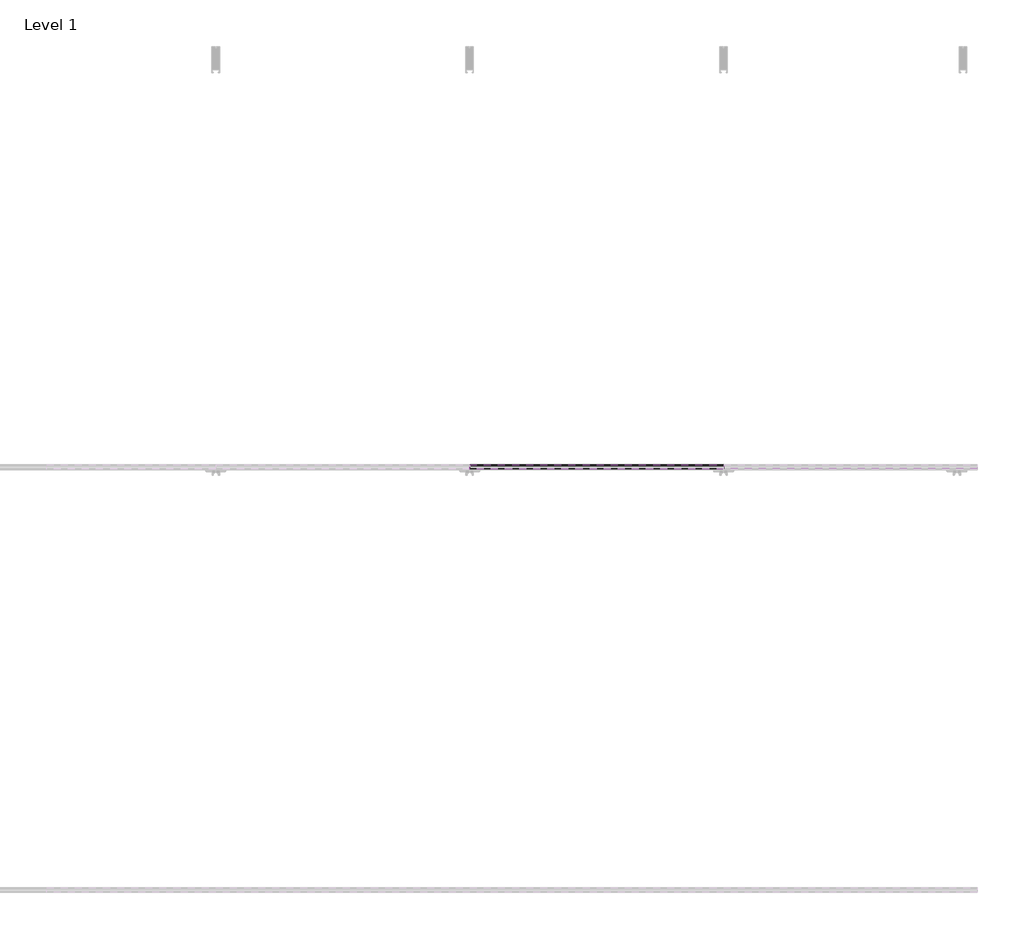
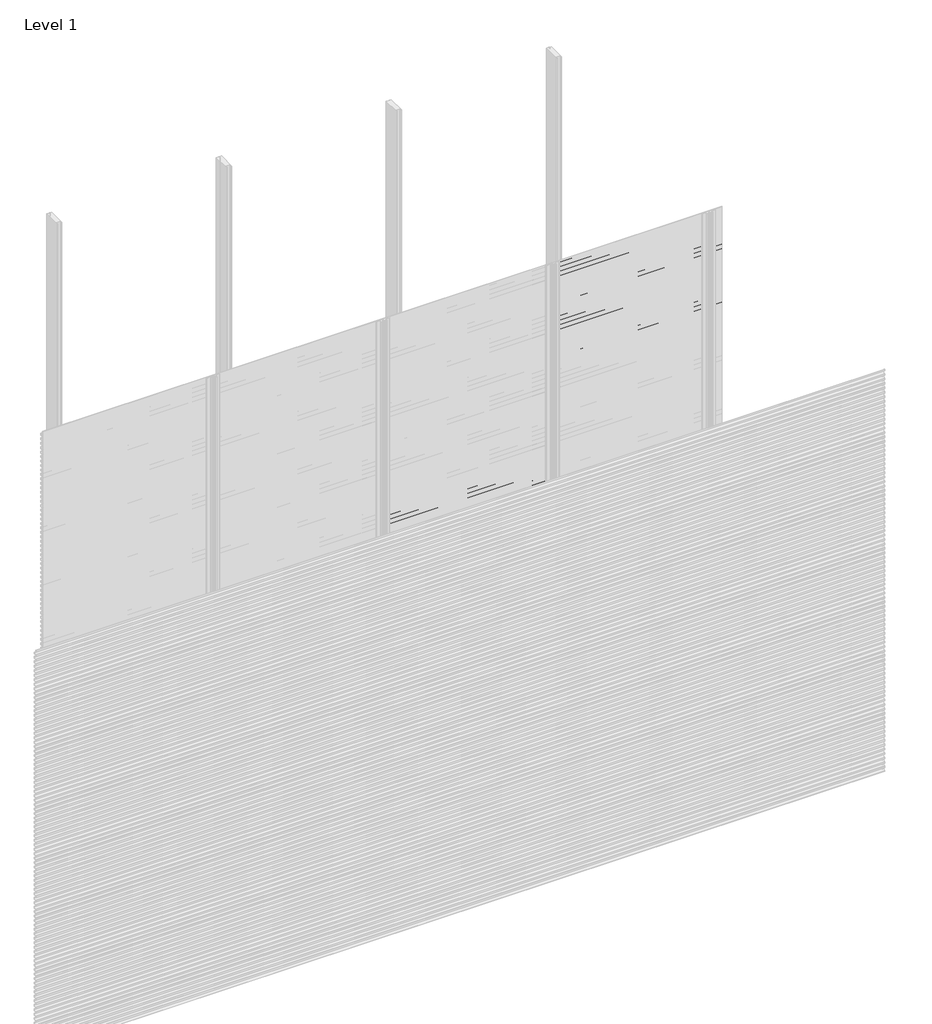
# One storey, part 9 of 77: 72 proxies.
"""IFC4 building model written with IfcOpenShell, lengths in millimetres."""

from ifc_helpers import new_model, si_unit, frame, origin, place, context, project, spatial, polyline, outline, extrude, element, save

model = new_model("IFC4")

# Units and contexts
model_context = context("Model", 3, world=origin())
ifc_project = project(units=[si_unit("LENGTHUNIT", "METRE", prefix="MILLI")], contexts=[model_context])

# Site, building, storey
site = spatial("IfcSite", under=ifc_project)
building = spatial("IfcBuilding", under=site)
storey = spatial("IfcBuildingStorey", under=building, Name="Level 1", Elevation=0.0)

# Proxies
placement = place(None, origin())
element("IfcBuildingElementProxy", 1, Name="Wall Sweeps", at=placement, inside=storey, context=model_context, shape_type="SweptSolid", body=[
    extrude(outline(polyline([(-53978.6, 1607.2359887), (-53998.0, 1618.4366691), (-53998.0, 1631.7), (-53997.0, 1631.7), (-53997.0, 1619.0191057), (-53977.6, 1607.8185105), (-53977.6, 1594.2185105), (-53978.6, 1595.7953129), (-53978.6, 1601.6032062), (-53995.9773817, 1593.5), (-53996.4, 1594.4063078), (-53978.6, 1602.7065841), (-53978.6, 1607.2359887)])), frame((3600.0, 0.0, 0.0), z_axis=(1.0, 0.0, 0.0), x_axis=(0.0, 1.0, 0.0)), (0.0, 0.0, 1.0), 1200.0),
])
element("IfcBuildingElementProxy", 2, Name="Wall Sweeps", at=placement, inside=storey, context=model_context, shape_type="SweptSolid", body=[
    extrude(outline(polyline([(-53978.6, 1573.9359887), (-53998.0, 1585.1366691), (-53998.0, 1598.4), (-53997.0, 1598.4), (-53997.0, 1585.7191057), (-53977.6, 1574.5185105), (-53977.6, 1560.9185105), (-53978.6, 1562.4953129), (-53978.6, 1568.3032062), (-53995.9773817, 1560.2), (-53996.4, 1561.1063078), (-53978.6, 1569.4065841), (-53978.6, 1573.9359887)])), frame((3600.0, 0.0, 0.0), z_axis=(1.0, 0.0, 0.0), x_axis=(0.0, 1.0, 0.0)), (0.0, 0.0, 1.0), 1200.0),
])
element("IfcBuildingElementProxy", 3, Name="Wall Sweeps", at=placement, inside=storey, context=model_context, shape_type="SweptSolid", body=[
    extrude(outline(polyline([(-53978.6, 1540.6359887), (-53998.0, 1551.8366691), (-53998.0, 1565.1), (-53997.0, 1565.1), (-53997.0, 1552.4191057), (-53977.6, 1541.2185105), (-53977.6, 1527.6185105), (-53978.6, 1529.1953129), (-53978.6, 1535.0032062), (-53995.9773817, 1526.9), (-53996.4, 1527.8063078), (-53978.6, 1536.1065841), (-53978.6, 1540.6359887)])), frame((3600.0, 0.0, 0.0), z_axis=(1.0, 0.0, 0.0), x_axis=(0.0, 1.0, 0.0)), (0.0, 0.0, 1.0), 1200.0),
])
element("IfcBuildingElementProxy", 4, Name="Wall Sweeps", at=placement, inside=storey, context=model_context, shape_type="SweptSolid", body=[
    extrude(outline(polyline([(-53978.6, 1507.3359887), (-53998.0, 1518.5366691), (-53998.0, 1531.8), (-53997.0, 1531.8), (-53997.0, 1519.1191057), (-53977.6, 1507.9185105), (-53977.6, 1494.3185105), (-53978.6, 1495.8953129), (-53978.6, 1501.7032062), (-53995.9773817, 1493.6), (-53996.4, 1494.5063078), (-53978.6, 1502.8065841), (-53978.6, 1507.3359887)])), frame((3600.0, 0.0, 0.0), z_axis=(1.0, 0.0, 0.0), x_axis=(0.0, 1.0, 0.0)), (0.0, 0.0, 1.0), 1200.0),
])
element("IfcBuildingElementProxy", 5, Name="Wall Sweeps", at=placement, inside=storey, context=model_context, shape_type="SweptSolid", body=[
    extrude(outline(polyline([(-53978.6, 1474.0359887), (-53998.0, 1485.2366691), (-53998.0, 1498.5), (-53997.0, 1498.5), (-53997.0, 1485.8191057), (-53977.6, 1474.6185105), (-53977.6, 1461.0185105), (-53978.6, 1462.5953129), (-53978.6, 1468.4032062), (-53995.9773817, 1460.3), (-53996.4, 1461.2063078), (-53978.6, 1469.5065841), (-53978.6, 1474.0359887)])), frame((3600.0, 0.0, 0.0), z_axis=(1.0, 0.0, 0.0), x_axis=(0.0, 1.0, 0.0)), (0.0, 0.0, 1.0), 1200.0),
])
element("IfcBuildingElementProxy", 6, Name="Wall Sweeps", at=placement, inside=storey, context=model_context, shape_type="SweptSolid", body=[
    extrude(outline(polyline([(-53978.6, 1440.7359887), (-53998.0, 1451.9366691), (-53998.0, 1465.2), (-53997.0, 1465.2), (-53997.0, 1452.5191057), (-53977.6, 1441.3185105), (-53977.6, 1427.7185105), (-53978.6, 1429.2953129), (-53978.6, 1435.1032062), (-53995.9773817, 1427.0), (-53996.4, 1427.9063078), (-53978.6, 1436.2065841), (-53978.6, 1440.7359887)])), frame((3600.0, 0.0, 0.0), z_axis=(1.0, 0.0, 0.0), x_axis=(0.0, 1.0, 0.0)), (0.0, 0.0, 1.0), 1200.0),
])
element("IfcBuildingElementProxy", 7, Name="Wall Sweeps", at=placement, inside=storey, context=model_context, shape_type="SweptSolid", body=[
    extrude(outline(polyline([(-53978.6, 1407.4359887), (-53998.0, 1418.6366691), (-53998.0, 1431.9), (-53997.0, 1431.9), (-53997.0, 1419.2191057), (-53977.6, 1408.0185105), (-53977.6, 1394.4185105), (-53978.6, 1395.9953129), (-53978.6, 1401.8032062), (-53995.9773817, 1393.7), (-53996.4, 1394.6063078), (-53978.6, 1402.9065841), (-53978.6, 1407.4359887)])), frame((3600.0, 0.0, 0.0), z_axis=(1.0, 0.0, 0.0), x_axis=(0.0, 1.0, 0.0)), (0.0, 0.0, 1.0), 1200.0),
])
element("IfcBuildingElementProxy", 8, Name="Wall Sweeps", at=placement, inside=storey, context=model_context, shape_type="SweptSolid", body=[
    extrude(outline(polyline([(-53978.6, 1374.1359887), (-53998.0, 1385.3366691), (-53998.0, 1398.6), (-53997.0, 1398.6), (-53997.0, 1385.9191057), (-53977.6, 1374.7185105), (-53977.6, 1361.1185105), (-53978.6, 1362.6953129), (-53978.6, 1368.5032062), (-53995.9773817, 1360.4), (-53996.4, 1361.3063078), (-53978.6, 1369.6065841), (-53978.6, 1374.1359887)])), frame((3600.0, 0.0, 0.0), z_axis=(1.0, 0.0, 0.0), x_axis=(0.0, 1.0, 0.0)), (0.0, 0.0, 1.0), 1200.0),
])
element("IfcBuildingElementProxy", 9, Name="Wall Sweeps", at=placement, inside=storey, context=model_context, shape_type="SweptSolid", body=[
    extrude(outline(polyline([(-53978.6, 1340.8359887), (-53998.0, 1352.0366691), (-53998.0, 1365.3), (-53997.0, 1365.3), (-53997.0, 1352.6191057), (-53977.6, 1341.4185105), (-53977.6, 1327.8185105), (-53978.6, 1329.3953129), (-53978.6, 1335.2032062), (-53995.9773817, 1327.1), (-53996.4, 1328.0063078), (-53978.6, 1336.3065841), (-53978.6, 1340.8359887)])), frame((3600.0, 0.0, 0.0), z_axis=(1.0, 0.0, 0.0), x_axis=(0.0, 1.0, 0.0)), (0.0, 0.0, 1.0), 1200.0),
])
element("IfcBuildingElementProxy", 10, Name="Wall Sweeps", at=placement, inside=storey, context=model_context, shape_type="SweptSolid", body=[
    extrude(outline(polyline([(-53978.6, 1307.5359887), (-53998.0, 1318.7366691), (-53998.0, 1332.0), (-53997.0, 1332.0), (-53997.0, 1319.3191057), (-53977.6, 1308.1185105), (-53977.6, 1294.5185105), (-53978.6, 1296.0953129), (-53978.6, 1301.9032062), (-53995.9773817, 1293.8), (-53996.4, 1294.7063078), (-53978.6, 1303.0065841), (-53978.6, 1307.5359887)])), frame((3600.0, 0.0, 0.0), z_axis=(1.0, 0.0, 0.0), x_axis=(0.0, 1.0, 0.0)), (0.0, 0.0, 1.0), 1200.0),
])
element("IfcBuildingElementProxy", 11, Name="Wall Sweeps", at=placement, inside=storey, context=model_context, shape_type="SweptSolid", body=[
    extrude(outline(polyline([(-53978.6, 1274.2359887), (-53998.0, 1285.4366691), (-53998.0, 1298.7), (-53997.0, 1298.7), (-53997.0, 1286.0191057), (-53977.6, 1274.8185105), (-53977.6, 1261.2185105), (-53978.6, 1262.7953129), (-53978.6, 1268.6032062), (-53995.9773817, 1260.5), (-53996.4, 1261.4063078), (-53978.6, 1269.7065841), (-53978.6, 1274.2359887)])), frame((3600.0, 0.0, 0.0), z_axis=(1.0, 0.0, 0.0), x_axis=(0.0, 1.0, 0.0)), (0.0, 0.0, 1.0), 1200.0),
])
element("IfcBuildingElementProxy", 12, Name="Wall Sweeps", at=placement, inside=storey, context=model_context, shape_type="SweptSolid", body=[
    extrude(outline(polyline([(-53978.6, 1240.9359887), (-53998.0, 1252.1366691), (-53998.0, 1265.4), (-53997.0, 1265.4), (-53997.0, 1252.7191057), (-53977.6, 1241.5185105), (-53977.6, 1227.9185105), (-53978.6, 1229.4953129), (-53978.6, 1235.3032062), (-53995.9773817, 1227.2), (-53996.4, 1228.1063078), (-53978.6, 1236.4065841), (-53978.6, 1240.9359887)])), frame((3600.0, 0.0, 0.0), z_axis=(1.0, 0.0, 0.0), x_axis=(0.0, 1.0, 0.0)), (0.0, 0.0, 1.0), 1200.0),
])
element("IfcBuildingElementProxy", 13, Name="Wall Sweeps", at=placement, inside=storey, context=model_context, shape_type="SweptSolid", body=[
    extrude(outline(polyline([(-53978.6, 1207.6359887), (-53998.0, 1218.8366691), (-53998.0, 1232.1), (-53997.0, 1232.1), (-53997.0, 1219.4191057), (-53977.6, 1208.2185105), (-53977.6, 1194.6185105), (-53978.6, 1196.1953129), (-53978.6, 1202.0032062), (-53995.9773817, 1193.9), (-53996.4, 1194.8063078), (-53978.6, 1203.1065841), (-53978.6, 1207.6359887)])), frame((3600.0, 0.0, 0.0), z_axis=(1.0, 0.0, 0.0), x_axis=(0.0, 1.0, 0.0)), (0.0, 0.0, 1.0), 1200.0),
])
element("IfcBuildingElementProxy", 14, Name="Wall Sweeps", at=placement, inside=storey, context=model_context, shape_type="SweptSolid", body=[
    extrude(outline(polyline([(-53978.6, 1174.3359887), (-53998.0, 1185.5366691), (-53998.0, 1198.8), (-53997.0, 1198.8), (-53997.0, 1186.1191057), (-53977.6, 1174.9185105), (-53977.6, 1161.3185105), (-53978.6, 1162.8953129), (-53978.6, 1168.7032062), (-53995.9773817, 1160.6), (-53996.4, 1161.5063078), (-53978.6, 1169.8065841), (-53978.6, 1174.3359887)])), frame((3600.0, 0.0, 0.0), z_axis=(1.0, 0.0, 0.0), x_axis=(0.0, 1.0, 0.0)), (0.0, 0.0, 1.0), 1200.0),
])
element("IfcBuildingElementProxy", 15, Name="Wall Sweeps", at=placement, inside=storey, context=model_context, shape_type="SweptSolid", body=[
    extrude(outline(polyline([(-53978.6, 1141.0359887), (-53998.0, 1152.2366691), (-53998.0, 1165.5), (-53997.0, 1165.5), (-53997.0, 1152.8191057), (-53977.6, 1141.6185105), (-53977.6, 1128.0185105), (-53978.6, 1129.5953129), (-53978.6, 1135.4032062), (-53995.9773817, 1127.3), (-53996.4, 1128.2063078), (-53978.6, 1136.5065841), (-53978.6, 1141.0359887)])), frame((3600.0, 0.0, 0.0), z_axis=(1.0, 0.0, 0.0), x_axis=(0.0, 1.0, 0.0)), (0.0, 0.0, 1.0), 1200.0),
])
element("IfcBuildingElementProxy", 16, Name="Wall Sweeps", at=placement, inside=storey, context=model_context, shape_type="SweptSolid", body=[
    extrude(outline(polyline([(-53978.6, 1107.7359887), (-53998.0, 1118.9366691), (-53998.0, 1132.2), (-53997.0, 1132.2), (-53997.0, 1119.5191057), (-53977.6, 1108.3185105), (-53977.6, 1094.7185105), (-53978.6, 1096.2953129), (-53978.6, 1102.1032062), (-53995.9773817, 1094.0), (-53996.4, 1094.9063078), (-53978.6, 1103.2065841), (-53978.6, 1107.7359887)])), frame((3600.0, 0.0, 0.0), z_axis=(1.0, 0.0, 0.0), x_axis=(0.0, 1.0, 0.0)), (0.0, 0.0, 1.0), 1200.0),
])
element("IfcBuildingElementProxy", 17, Name="Wall Sweeps", at=placement, inside=storey, context=model_context, shape_type="SweptSolid", body=[
    extrude(outline(polyline([(-53978.6, 1074.4359887), (-53998.0, 1085.6366691), (-53998.0, 1098.9), (-53997.0, 1098.9), (-53997.0, 1086.2191057), (-53977.6, 1075.0185105), (-53977.6, 1061.4185105), (-53978.6, 1062.9953129), (-53978.6, 1068.8032062), (-53995.9773817, 1060.7), (-53996.4, 1061.6063078), (-53978.6, 1069.9065841), (-53978.6, 1074.4359887)])), frame((3600.0, 0.0, 0.0), z_axis=(1.0, 0.0, 0.0), x_axis=(0.0, 1.0, 0.0)), (0.0, 0.0, 1.0), 1200.0),
])
element("IfcBuildingElementProxy", 18, Name="Wall Sweeps", at=placement, inside=storey, context=model_context, shape_type="SweptSolid", body=[
    extrude(outline(polyline([(-53978.6, 1041.1359887), (-53998.0, 1052.3366691), (-53998.0, 1065.6), (-53997.0, 1065.6), (-53997.0, 1052.9191057), (-53977.6, 1041.7185105), (-53977.6, 1028.1185105), (-53978.6, 1029.6953129), (-53978.6, 1035.5032062), (-53995.9773817, 1027.4), (-53996.4, 1028.3063078), (-53978.6, 1036.6065841), (-53978.6, 1041.1359887)])), frame((3600.0, 0.0, 0.0), z_axis=(1.0, 0.0, 0.0), x_axis=(0.0, 1.0, 0.0)), (0.0, 0.0, 1.0), 1200.0),
])
element("IfcBuildingElementProxy", 19, Name="Wall Sweeps", at=placement, inside=storey, context=model_context, shape_type="SweptSolid", body=[
    extrude(outline(polyline([(-53978.6, 1007.8359887), (-53998.0, 1019.0366691), (-53998.0, 1032.3), (-53997.0, 1032.3), (-53997.0, 1019.6191057), (-53977.6, 1008.4185105), (-53977.6, 994.8185105), (-53978.6, 996.3953129), (-53978.6, 1002.2032062), (-53995.9773817, 994.1), (-53996.4, 995.0063078), (-53978.6, 1003.3065841), (-53978.6, 1007.8359887)])), frame((3600.0, 0.0, 0.0), z_axis=(1.0, 0.0, 0.0), x_axis=(0.0, 1.0, 0.0)), (0.0, 0.0, 1.0), 1200.0),
])
element("IfcBuildingElementProxy", 20, Name="Wall Sweeps", at=placement, inside=storey, context=model_context, shape_type="SweptSolid", body=[
    extrude(outline(polyline([(-53978.6, 974.5359887), (-53998.0, 985.7366691), (-53998.0, 999.0), (-53997.0, 999.0), (-53997.0, 986.3191057), (-53977.6, 975.1185105), (-53977.6, 961.5185105), (-53978.6, 963.0953129), (-53978.6, 968.9032062), (-53995.9773817, 960.8), (-53996.4, 961.7063078), (-53978.6, 970.0065841), (-53978.6, 974.5359887)])), frame((3600.0, 0.0, 0.0), z_axis=(1.0, 0.0, 0.0), x_axis=(0.0, 1.0, 0.0)), (0.0, 0.0, 1.0), 1200.0),
])
element("IfcBuildingElementProxy", 21, Name="Wall Sweeps", at=placement, inside=storey, context=model_context, shape_type="SweptSolid", body=[
    extrude(outline(polyline([(-53978.6, 941.2359887), (-53998.0, 952.4366691), (-53998.0, 965.7), (-53997.0, 965.7), (-53997.0, 953.0191057), (-53977.6, 941.8185105), (-53977.6, 928.2185105), (-53978.6, 929.7953129), (-53978.6, 935.6032062), (-53995.9773817, 927.5), (-53996.4, 928.4063078), (-53978.6, 936.7065841), (-53978.6, 941.2359887)])), frame((3600.0, 0.0, 0.0), z_axis=(1.0, 0.0, 0.0), x_axis=(0.0, 1.0, 0.0)), (0.0, 0.0, 1.0), 1200.0),
])
element("IfcBuildingElementProxy", 22, Name="Wall Sweeps", at=placement, inside=storey, context=model_context, shape_type="SweptSolid", body=[
    extrude(outline(polyline([(-53978.6, 907.9359887), (-53998.0, 919.1366691), (-53998.0, 932.4), (-53997.0, 932.4), (-53997.0, 919.7191057), (-53977.6, 908.5185105), (-53977.6, 894.9185105), (-53978.6, 896.4953129), (-53978.6, 902.3032062), (-53995.9773817, 894.2), (-53996.4, 895.1063078), (-53978.6, 903.4065841), (-53978.6, 907.9359887)])), frame((3600.0, 0.0, 0.0), z_axis=(1.0, 0.0, 0.0), x_axis=(0.0, 1.0, 0.0)), (0.0, 0.0, 1.0), 1200.0),
])
element("IfcBuildingElementProxy", 23, Name="Wall Sweeps", at=placement, inside=storey, context=model_context, shape_type="SweptSolid", body=[
    extrude(outline(polyline([(-53978.6, 874.6359887), (-53998.0, 885.8366691), (-53998.0, 899.1), (-53997.0, 899.1), (-53997.0, 886.4191057), (-53977.6, 875.2185105), (-53977.6, 861.6185105), (-53978.6, 863.1953129), (-53978.6, 869.0032062), (-53995.9773817, 860.9), (-53996.4, 861.8063078), (-53978.6, 870.1065841), (-53978.6, 874.6359887)])), frame((3600.0, 0.0, 0.0), z_axis=(1.0, 0.0, 0.0), x_axis=(0.0, 1.0, 0.0)), (0.0, 0.0, 1.0), 1200.0),
])
element("IfcBuildingElementProxy", 24, Name="Wall Sweeps", at=placement, inside=storey, context=model_context, shape_type="SweptSolid", body=[
    extrude(outline(polyline([(-53978.6, 841.3359887), (-53998.0, 852.5366691), (-53998.0, 865.8), (-53997.0, 865.8), (-53997.0, 853.1191057), (-53977.6, 841.9185105), (-53977.6, 828.3185105), (-53978.6, 829.8953129), (-53978.6, 835.7032062), (-53995.9773817, 827.6), (-53996.4, 828.5063078), (-53978.6, 836.8065841), (-53978.6, 841.3359887)])), frame((3600.0, 0.0, 0.0), z_axis=(1.0, 0.0, 0.0), x_axis=(0.0, 1.0, 0.0)), (0.0, 0.0, 1.0), 1200.0),
])
element("IfcBuildingElementProxy", 25, Name="Wall Sweeps", at=placement, inside=storey, context=model_context, shape_type="SweptSolid", body=[
    extrude(outline(polyline([(-53978.6, 808.0359887), (-53998.0, 819.2366691), (-53998.0, 832.5), (-53997.0, 832.5), (-53997.0, 819.8191057), (-53977.6, 808.6185105), (-53977.6, 795.0185105), (-53978.6, 796.5953129), (-53978.6, 802.4032062), (-53995.9773817, 794.3), (-53996.4, 795.2063078), (-53978.6, 803.5065841), (-53978.6, 808.0359887)])), frame((3600.0, 0.0, 0.0), z_axis=(1.0, 0.0, 0.0), x_axis=(0.0, 1.0, 0.0)), (0.0, 0.0, 1.0), 1200.0),
])
element("IfcBuildingElementProxy", 26, Name="Wall Sweeps", at=placement, inside=storey, context=model_context, shape_type="SweptSolid", body=[
    extrude(outline(polyline([(-53978.6, 774.7359887), (-53998.0, 785.9366691), (-53998.0, 799.2), (-53997.0, 799.2), (-53997.0, 786.5191057), (-53977.6, 775.3185105), (-53977.6, 761.7185105), (-53978.6, 763.2953129), (-53978.6, 769.1032062), (-53995.9773817, 761.0), (-53996.4, 761.9063078), (-53978.6, 770.2065841), (-53978.6, 774.7359887)])), frame((3600.0, 0.0, 0.0), z_axis=(1.0, 0.0, 0.0), x_axis=(0.0, 1.0, 0.0)), (0.0, 0.0, 1.0), 1200.0),
])
element("IfcBuildingElementProxy", 27, Name="Wall Sweeps", at=placement, inside=storey, context=model_context, shape_type="SweptSolid", body=[
    extrude(outline(polyline([(-53978.6, 741.4359887), (-53998.0, 752.6366691), (-53998.0, 765.9), (-53997.0, 765.9), (-53997.0, 753.2191057), (-53977.6, 742.0185105), (-53977.6, 728.4185105), (-53978.6, 729.9953129), (-53978.6, 735.8032062), (-53995.9773817, 727.7), (-53996.4, 728.6063078), (-53978.6, 736.9065841), (-53978.6, 741.4359887)])), frame((3600.0, 0.0, 0.0), z_axis=(1.0, 0.0, 0.0), x_axis=(0.0, 1.0, 0.0)), (0.0, 0.0, 1.0), 1200.0),
])
element("IfcBuildingElementProxy", 28, Name="Wall Sweeps", at=placement, inside=storey, context=model_context, shape_type="SweptSolid", body=[
    extrude(outline(polyline([(-53978.6, 708.1359887), (-53998.0, 719.3366691), (-53998.0, 732.6), (-53997.0, 732.6), (-53997.0, 719.9191057), (-53977.6, 708.7185105), (-53977.6, 695.1185105), (-53978.6, 696.6953129), (-53978.6, 702.5032062), (-53995.9773817, 694.4), (-53996.4, 695.3063078), (-53978.6, 703.6065841), (-53978.6, 708.1359887)])), frame((3600.0, 0.0, 0.0), z_axis=(1.0, 0.0, 0.0), x_axis=(0.0, 1.0, 0.0)), (0.0, 0.0, 1.0), 1200.0),
])
element("IfcBuildingElementProxy", 29, Name="Wall Sweeps", at=placement, inside=storey, context=model_context, shape_type="SweptSolid", body=[
    extrude(outline(polyline([(-53978.6, 674.8359887), (-53998.0, 686.0366691), (-53998.0, 699.3), (-53997.0, 699.3), (-53997.0, 686.6191057), (-53977.6, 675.4185105), (-53977.6, 661.8185105), (-53978.6, 663.3953129), (-53978.6, 669.2032062), (-53995.9773817, 661.1), (-53996.4, 662.0063078), (-53978.6, 670.3065841), (-53978.6, 674.8359887)])), frame((3600.0, 0.0, 0.0), z_axis=(1.0, 0.0, 0.0), x_axis=(0.0, 1.0, 0.0)), (0.0, 0.0, 1.0), 1200.0),
])
element("IfcBuildingElementProxy", 30, Name="Wall Sweeps", at=placement, inside=storey, context=model_context, shape_type="SweptSolid", body=[
    extrude(outline(polyline([(-53978.6, 641.5359887), (-53998.0, 652.7366691), (-53998.0, 666.0), (-53997.0, 666.0), (-53997.0, 653.3191057), (-53977.6, 642.1185105), (-53977.6, 628.5185105), (-53978.6, 630.0953129), (-53978.6, 635.9032062), (-53995.9773817, 627.8), (-53996.4, 628.7063078), (-53978.6, 637.0065841), (-53978.6, 641.5359887)])), frame((3600.0, 0.0, 0.0), z_axis=(1.0, 0.0, 0.0), x_axis=(0.0, 1.0, 0.0)), (0.0, 0.0, 1.0), 1200.0),
])
element("IfcBuildingElementProxy", 31, Name="Wall Sweeps", at=placement, inside=storey, context=model_context, shape_type="SweptSolid", body=[
    extrude(outline(polyline([(-53978.6, 608.2359887), (-53998.0, 619.4366691), (-53998.0, 632.7), (-53997.0, 632.7), (-53997.0, 620.0191057), (-53977.6, 608.8185105), (-53977.6, 595.2185105), (-53978.6, 596.7953129), (-53978.6, 602.6032062), (-53995.9773817, 594.5), (-53996.4, 595.4063078), (-53978.6, 603.7065841), (-53978.6, 608.2359887)])), frame((3600.0, 0.0, 0.0), z_axis=(1.0, 0.0, 0.0), x_axis=(0.0, 1.0, 0.0)), (0.0, 0.0, 1.0), 1200.0),
])
element("IfcBuildingElementProxy", 32, Name="Wall Sweeps", at=placement, inside=storey, context=model_context, shape_type="SweptSolid", body=[
    extrude(outline(polyline([(-53978.6, 574.9359887), (-53998.0, 586.1366691), (-53998.0, 599.4), (-53997.0, 599.4), (-53997.0, 586.7191057), (-53977.6, 575.5185105), (-53977.6, 561.9185105), (-53978.6, 563.4953129), (-53978.6, 569.3032062), (-53995.9773817, 561.2), (-53996.4, 562.1063078), (-53978.6, 570.4065841), (-53978.6, 574.9359887)])), frame((3600.0, 0.0, 0.0), z_axis=(1.0, 0.0, 0.0), x_axis=(0.0, 1.0, 0.0)), (0.0, 0.0, 1.0), 1200.0),
])
element("IfcBuildingElementProxy", 33, Name="Wall Sweeps", at=placement, inside=storey, context=model_context, shape_type="SweptSolid", body=[
    extrude(outline(polyline([(-53978.6, 541.6359887), (-53998.0, 552.8366691), (-53998.0, 566.1), (-53997.0, 566.1), (-53997.0, 553.4191057), (-53977.6, 542.2185105), (-53977.6, 528.6185105), (-53978.6, 530.1953129), (-53978.6, 536.0032062), (-53995.9773817, 527.9), (-53996.4, 528.8063078), (-53978.6, 537.1065841), (-53978.6, 541.6359887)])), frame((3600.0, 0.0, 0.0), z_axis=(1.0, 0.0, 0.0), x_axis=(0.0, 1.0, 0.0)), (0.0, 0.0, 1.0), 1200.0),
])
element("IfcBuildingElementProxy", 34, Name="Wall Sweeps", at=placement, inside=storey, context=model_context, shape_type="SweptSolid", body=[
    extrude(outline(polyline([(-53978.6, 508.3359887), (-53998.0, 519.5366691), (-53998.0, 532.8), (-53997.0, 532.8), (-53997.0, 520.1191057), (-53977.6, 508.9185105), (-53977.6, 495.3185105), (-53978.6, 496.8953129), (-53978.6, 502.7032062), (-53995.9773817, 494.6), (-53996.4, 495.5063078), (-53978.6, 503.8065841), (-53978.6, 508.3359887)])), frame((3600.0, 0.0, 0.0), z_axis=(1.0, 0.0, 0.0), x_axis=(0.0, 1.0, 0.0)), (0.0, 0.0, 1.0), 1200.0),
])
element("IfcBuildingElementProxy", 35, Name="Wall Sweeps", at=placement, inside=storey, context=model_context, shape_type="SweptSolid", body=[
    extrude(outline(polyline([(-53978.6, 475.0359887), (-53998.0, 486.2366691), (-53998.0, 499.5), (-53997.0, 499.5), (-53997.0, 486.8191057), (-53977.6, 475.6185105), (-53977.6, 462.0185105), (-53978.6, 463.5953129), (-53978.6, 469.4032062), (-53995.9773817, 461.3), (-53996.4, 462.2063078), (-53978.6, 470.5065841), (-53978.6, 475.0359887)])), frame((3600.0, 0.0, 0.0), z_axis=(1.0, 0.0, 0.0), x_axis=(0.0, 1.0, 0.0)), (0.0, 0.0, 1.0), 1200.0),
])
element("IfcBuildingElementProxy", 36, Name="Wall Sweeps", at=placement, inside=storey, context=model_context, shape_type="SweptSolid", body=[
    extrude(outline(polyline([(-53978.6, 441.7359887), (-53998.0, 452.9366691), (-53998.0, 466.2), (-53997.0, 466.2), (-53997.0, 453.5191057), (-53977.6, 442.3185105), (-53977.6, 428.7185105), (-53978.6, 430.2953129), (-53978.6, 436.1032062), (-53995.9773817, 428.0), (-53996.4, 428.9063078), (-53978.6, 437.2065841), (-53978.6, 441.7359887)])), frame((3600.0, 0.0, 0.0), z_axis=(1.0, 0.0, 0.0), x_axis=(0.0, 1.0, 0.0)), (0.0, 0.0, 1.0), 1200.0),
])
element("IfcBuildingElementProxy", 37, Name="Wall Sweeps", at=placement, inside=storey, context=model_context, shape_type="SweptSolid", body=[
    extrude(outline(polyline([(-53978.6, 408.4359887), (-53998.0, 419.6366691), (-53998.0, 432.9), (-53997.0, 432.9), (-53997.0, 420.2191057), (-53977.6, 409.0185105), (-53977.6, 395.4185105), (-53978.6, 396.9953129), (-53978.6, 402.8032062), (-53995.9773817, 394.7), (-53996.4, 395.6063078), (-53978.6, 403.9065841), (-53978.6, 408.4359887)])), frame((3600.0, 0.0, 0.0), z_axis=(1.0, 0.0, 0.0), x_axis=(0.0, 1.0, 0.0)), (0.0, 0.0, 1.0), 1200.0),
])
element("IfcBuildingElementProxy", 38, Name="Wall Sweeps", at=placement, inside=storey, context=model_context, shape_type="SweptSolid", body=[
    extrude(outline(polyline([(-53978.6, 375.1359887), (-53998.0, 386.3366691), (-53998.0, 399.6), (-53997.0, 399.6), (-53997.0, 386.9191057), (-53977.6, 375.7185105), (-53977.6, 362.1185105), (-53978.6, 363.6953129), (-53978.6, 369.5032062), (-53995.9773817, 361.4), (-53996.4, 362.3063078), (-53978.6, 370.6065841), (-53978.6, 375.1359887)])), frame((3600.0, 0.0, 0.0), z_axis=(1.0, 0.0, 0.0), x_axis=(0.0, 1.0, 0.0)), (0.0, 0.0, 1.0), 1200.0),
])
element("IfcBuildingElementProxy", 39, Name="Wall Sweeps", at=placement, inside=storey, context=model_context, shape_type="SweptSolid", body=[
    extrude(outline(polyline([(-53978.6, 341.8359887), (-53998.0, 353.0366691), (-53998.0, 366.3), (-53997.0, 366.3), (-53997.0, 353.6191057), (-53977.6, 342.4185105), (-53977.6, 328.8185105), (-53978.6, 330.3953129), (-53978.6, 336.2032062), (-53995.9773817, 328.1), (-53996.4, 329.0063078), (-53978.6, 337.3065841), (-53978.6, 341.8359887)])), frame((3600.0, 0.0, 0.0), z_axis=(1.0, 0.0, 0.0), x_axis=(0.0, 1.0, 0.0)), (0.0, 0.0, 1.0), 1200.0),
])
element("IfcBuildingElementProxy", 40, Name="Wall Sweeps", at=placement, inside=storey, context=model_context, shape_type="SweptSolid", body=[
    extrude(outline(polyline([(-53978.6, 308.5359887), (-53998.0, 319.7366691), (-53998.0, 333.0), (-53997.0, 333.0), (-53997.0, 320.3191057), (-53977.6, 309.1185105), (-53977.6, 295.5185105), (-53978.6, 297.0953129), (-53978.6, 302.9032062), (-53995.9773817, 294.8), (-53996.4, 295.7063078), (-53978.6, 304.0065841), (-53978.6, 308.5359887)])), frame((3600.0, 0.0, 0.0), z_axis=(1.0, 0.0, 0.0), x_axis=(0.0, 1.0, 0.0)), (0.0, 0.0, 1.0), 1200.0),
])
element("IfcBuildingElementProxy", 41, Name="Wall Sweeps", at=placement, inside=storey, context=model_context, shape_type="SweptSolid", body=[
    extrude(outline(polyline([(-53978.6, 275.2359887), (-53998.0, 286.4366691), (-53998.0, 299.7), (-53997.0, 299.7), (-53997.0, 287.0191057), (-53977.6, 275.8185105), (-53977.6, 262.2185105), (-53978.6, 263.7953129), (-53978.6, 269.6032062), (-53995.9773817, 261.5), (-53996.4, 262.4063078), (-53978.6, 270.7065841), (-53978.6, 275.2359887)])), frame((3600.0, 0.0, 0.0), z_axis=(1.0, 0.0, 0.0), x_axis=(0.0, 1.0, 0.0)), (0.0, 0.0, 1.0), 1200.0),
])
element("IfcBuildingElementProxy", 42, Name="Wall Sweeps", at=placement, inside=storey, context=model_context, shape_type="SweptSolid", body=[
    extrude(outline(polyline([(-53978.6, 241.9359887), (-53998.0, 253.1366691), (-53998.0, 266.4), (-53997.0, 266.4), (-53997.0, 253.7191057), (-53977.6, 242.5185105), (-53977.6, 228.9185105), (-53978.6, 230.4953129), (-53978.6, 236.3032062), (-53995.9773817, 228.2), (-53996.4, 229.1063078), (-53978.6, 237.4065841), (-53978.6, 241.9359887)])), frame((3600.0, 0.0, 0.0), z_axis=(1.0, 0.0, 0.0), x_axis=(0.0, 1.0, 0.0)), (0.0, 0.0, 1.0), 1200.0),
])
element("IfcBuildingElementProxy", 43, Name="Wall Sweeps", at=placement, inside=storey, context=model_context, shape_type="SweptSolid", body=[
    extrude(outline(polyline([(-53978.6, 208.6359887), (-53998.0, 219.8366691), (-53998.0, 233.1), (-53997.0, 233.1), (-53997.0, 220.4191057), (-53977.6, 209.2185105), (-53977.6, 195.6185105), (-53978.6, 197.1953129), (-53978.6, 203.0032062), (-53995.9773817, 194.9), (-53996.4, 195.8063078), (-53978.6, 204.1065841), (-53978.6, 208.6359887)])), frame((3600.0, 0.0, 0.0), z_axis=(1.0, 0.0, 0.0), x_axis=(0.0, 1.0, 0.0)), (0.0, 0.0, 1.0), 1200.0),
])
element("IfcBuildingElementProxy", 44, Name="Wall Sweeps", at=placement, inside=storey, context=model_context, shape_type="SweptSolid", body=[
    extrude(outline(polyline([(-53978.6, 175.3359887), (-53998.0, 186.5366691), (-53998.0, 199.8), (-53997.0, 199.8), (-53997.0, 187.1191057), (-53977.6, 175.9185105), (-53977.6, 162.3185105), (-53978.6, 163.8953129), (-53978.6, 169.7032062), (-53995.9773817, 161.6), (-53996.4, 162.5063078), (-53978.6, 170.8065841), (-53978.6, 175.3359887)])), frame((3600.0, 0.0, 0.0), z_axis=(1.0, 0.0, 0.0), x_axis=(0.0, 1.0, 0.0)), (0.0, 0.0, 1.0), 1200.0),
])
element("IfcBuildingElementProxy", 45, Name="Wall Sweeps", at=placement, inside=storey, context=model_context, shape_type="SweptSolid", body=[
    extrude(outline(polyline([(-53978.6, 142.0359887), (-53998.0, 153.2366691), (-53998.0, 166.5), (-53997.0, 166.5), (-53997.0, 153.8191057), (-53977.6, 142.6185105), (-53977.6, 129.0185105), (-53978.6, 130.5953129), (-53978.6, 136.4032062), (-53995.9773817, 128.3), (-53996.4, 129.2063078), (-53978.6, 137.5065841), (-53978.6, 142.0359887)])), frame((3600.0, 0.0, 0.0), z_axis=(1.0, 0.0, 0.0), x_axis=(0.0, 1.0, 0.0)), (0.0, 0.0, 1.0), 1200.0),
])
element("IfcBuildingElementProxy", 46, Name="Wall Sweeps", at=placement, inside=storey, context=model_context, shape_type="SweptSolid", body=[
    extrude(outline(polyline([(-53978.6, 108.7359887), (-53998.0, 119.9366691), (-53998.0, 133.2), (-53997.0, 133.2), (-53997.0, 120.5191057), (-53977.6, 109.3185105), (-53977.6, 95.7185105), (-53978.6, 97.2953129), (-53978.6, 103.1032062), (-53995.9773817, 95.0), (-53996.4, 95.9063078), (-53978.6, 104.2065841), (-53978.6, 108.7359887)])), frame((3600.0, 0.0, 0.0), z_axis=(1.0, 0.0, 0.0), x_axis=(0.0, 1.0, 0.0)), (0.0, 0.0, 1.0), 1200.0),
])
element("IfcBuildingElementProxy", 47, Name="Wall Sweeps", at=placement, inside=storey, context=model_context, shape_type="SweptSolid", body=[
    extrude(outline(polyline([(-53978.6, 75.4359887), (-53998.0, 86.6366691), (-53998.0, 99.9), (-53997.0, 99.9), (-53997.0, 87.2191057), (-53977.6, 76.0185105), (-53977.6, 62.4185105), (-53978.6, 63.9953129), (-53978.6, 69.8032062), (-53995.9773817, 61.7), (-53996.4, 62.6063078), (-53978.6, 70.9065841), (-53978.6, 75.4359887)])), frame((3600.0, 0.0, 0.0), z_axis=(1.0, 0.0, 0.0), x_axis=(0.0, 1.0, 0.0)), (0.0, 0.0, 1.0), 1200.0),
])
element("IfcBuildingElementProxy", 48, Name="Wall Sweeps", at=placement, inside=storey, context=model_context, shape_type="SweptSolid", body=[
    extrude(outline(polyline([(-53978.6, 42.1359887), (-53998.0, 53.3366691), (-53998.0, 66.6), (-53997.0, 66.6), (-53997.0, 53.9191057), (-53977.6, 42.7185105), (-53977.6, 29.1185105), (-53978.6, 30.6953129), (-53978.6, 36.5032062), (-53995.9773817, 28.4), (-53996.4, 29.3063078), (-53978.6, 37.6065841), (-53978.6, 42.1359887)])), frame((3600.0, 0.0, 0.0), z_axis=(1.0, 0.0, 0.0), x_axis=(0.0, 1.0, 0.0)), (0.0, 0.0, 1.0), 1200.0),
])
element("IfcBuildingElementProxy", 49, Name="Wall Sweeps", at=placement, inside=storey, context=model_context, shape_type="SweptSolid", body=[
    extrude(outline(polyline([(-53978.6, 8.8359887), (-53998.0, 20.0366691), (-53998.0, 33.3), (-53997.0, 33.3), (-53997.0, 20.6191057), (-53977.6, 9.4185105), (-53977.6, -4.1814895), (-53978.6, -2.6046871), (-53978.6, 3.2032062), (-53995.9773817, -4.9), (-53996.4, -3.9936922), (-53978.6, 4.3065841), (-53978.6, 8.8359887)])), frame((3600.0, 0.0, 0.0), z_axis=(1.0, 0.0, 0.0), x_axis=(0.0, 1.0, 0.0)), (0.0, 0.0, 1.0), 1200.0),
])
element("IfcBuildingElementProxy", 50, Name="Wall Sweeps", at=placement, inside=storey, context=model_context, shape_type="SweptSolid", body=[
    extrude(outline(polyline([(-53978.6, 2972.5359887), (-53998.0, 2983.7366691), (-53998.0, 2997.0), (-53997.0, 2997.0), (-53997.0, 2984.3191057), (-53977.6, 2973.1185105), (-53977.6, 2959.5185105), (-53978.6, 2961.0953129), (-53978.6, 2966.9032062), (-53995.9773817, 2958.8), (-53996.4, 2959.7063078), (-53978.6, 2968.0065841), (-53978.6, 2972.5359887)])), frame((4800.0, 0.0, 0.0), z_axis=(1.0, 0.0, 0.0), x_axis=(0.0, 1.0, 0.0)), (0.0, 0.0, 1.0), 1200.0),
])
element("IfcBuildingElementProxy", 51, Name="Wall Sweeps", at=placement, inside=storey, context=model_context, shape_type="SweptSolid", body=[
    extrude(outline(polyline([(-53978.6, 2939.2359887), (-53998.0, 2950.4366691), (-53998.0, 2963.7), (-53997.0, 2963.7), (-53997.0, 2951.0191057), (-53977.6, 2939.8185105), (-53977.6, 2926.2185105), (-53978.6, 2927.7953129), (-53978.6, 2933.6032062), (-53995.9773817, 2925.5), (-53996.4, 2926.4063078), (-53978.6, 2934.7065841), (-53978.6, 2939.2359887)])), frame((4800.0, 0.0, 0.0), z_axis=(1.0, 0.0, 0.0), x_axis=(0.0, 1.0, 0.0)), (0.0, 0.0, 1.0), 1200.0),
])
element("IfcBuildingElementProxy", 52, Name="Wall Sweeps", at=placement, inside=storey, context=model_context, shape_type="SweptSolid", body=[
    extrude(outline(polyline([(-53978.6, 2905.9359887), (-53998.0, 2917.1366691), (-53998.0, 2930.4), (-53997.0, 2930.4), (-53997.0, 2917.7191057), (-53977.6, 2906.5185105), (-53977.6, 2892.9185105), (-53978.6, 2894.4953129), (-53978.6, 2900.3032062), (-53995.9773817, 2892.2), (-53996.4, 2893.1063078), (-53978.6, 2901.4065841), (-53978.6, 2905.9359887)])), frame((4800.0, 0.0, 0.0), z_axis=(1.0, 0.0, 0.0), x_axis=(0.0, 1.0, 0.0)), (0.0, 0.0, 1.0), 1200.0),
])
element("IfcBuildingElementProxy", 53, Name="Wall Sweeps", at=placement, inside=storey, context=model_context, shape_type="SweptSolid", body=[
    extrude(outline(polyline([(-53978.6, 2872.6359887), (-53998.0, 2883.8366691), (-53998.0, 2897.1), (-53997.0, 2897.1), (-53997.0, 2884.4191057), (-53977.6, 2873.2185105), (-53977.6, 2859.6185105), (-53978.6, 2861.1953129), (-53978.6, 2867.0032062), (-53995.9773817, 2858.9), (-53996.4, 2859.8063078), (-53978.6, 2868.1065841), (-53978.6, 2872.6359887)])), frame((4800.0, 0.0, 0.0), z_axis=(1.0, 0.0, 0.0), x_axis=(0.0, 1.0, 0.0)), (0.0, 0.0, 1.0), 1200.0),
])
element("IfcBuildingElementProxy", 54, Name="Wall Sweeps", at=placement, inside=storey, context=model_context, shape_type="SweptSolid", body=[
    extrude(outline(polyline([(-53978.6, 2839.3359887), (-53998.0, 2850.5366691), (-53998.0, 2863.8), (-53997.0, 2863.8), (-53997.0, 2851.1191057), (-53977.6, 2839.9185105), (-53977.6, 2826.3185105), (-53978.6, 2827.8953129), (-53978.6, 2833.7032062), (-53995.9773817, 2825.6), (-53996.4, 2826.5063078), (-53978.6, 2834.8065841), (-53978.6, 2839.3359887)])), frame((4800.0, 0.0, 0.0), z_axis=(1.0, 0.0, 0.0), x_axis=(0.0, 1.0, 0.0)), (0.0, 0.0, 1.0), 1200.0),
])
element("IfcBuildingElementProxy", 55, Name="Wall Sweeps", at=placement, inside=storey, context=model_context, shape_type="SweptSolid", body=[
    extrude(outline(polyline([(-53978.6, 2806.0359887), (-53998.0, 2817.2366691), (-53998.0, 2830.5), (-53997.0, 2830.5), (-53997.0, 2817.8191057), (-53977.6, 2806.6185105), (-53977.6, 2793.0185105), (-53978.6, 2794.5953129), (-53978.6, 2800.4032062), (-53995.9773817, 2792.3), (-53996.4, 2793.2063078), (-53978.6, 2801.5065841), (-53978.6, 2806.0359887)])), frame((4800.0, 0.0, 0.0), z_axis=(1.0, 0.0, 0.0), x_axis=(0.0, 1.0, 0.0)), (0.0, 0.0, 1.0), 1200.0),
])
element("IfcBuildingElementProxy", 56, Name="Wall Sweeps", at=placement, inside=storey, context=model_context, shape_type="SweptSolid", body=[
    extrude(outline(polyline([(-53978.6, 2772.7359887), (-53998.0, 2783.9366691), (-53998.0, 2797.2), (-53997.0, 2797.2), (-53997.0, 2784.5191057), (-53977.6, 2773.3185105), (-53977.6, 2759.7185105), (-53978.6, 2761.2953129), (-53978.6, 2767.1032062), (-53995.9773817, 2759.0), (-53996.4, 2759.9063078), (-53978.6, 2768.2065841), (-53978.6, 2772.7359887)])), frame((4800.0, 0.0, 0.0), z_axis=(1.0, 0.0, 0.0), x_axis=(0.0, 1.0, 0.0)), (0.0, 0.0, 1.0), 1200.0),
])
element("IfcBuildingElementProxy", 57, Name="Wall Sweeps", at=placement, inside=storey, context=model_context, shape_type="SweptSolid", body=[
    extrude(outline(polyline([(-53978.6, 2739.4359887), (-53998.0, 2750.6366691), (-53998.0, 2763.9), (-53997.0, 2763.9), (-53997.0, 2751.2191057), (-53977.6, 2740.0185105), (-53977.6, 2726.4185105), (-53978.6, 2727.9953129), (-53978.6, 2733.8032062), (-53995.9773817, 2725.7), (-53996.4, 2726.6063078), (-53978.6, 2734.9065841), (-53978.6, 2739.4359887)])), frame((4800.0, 0.0, 0.0), z_axis=(1.0, 0.0, 0.0), x_axis=(0.0, 1.0, 0.0)), (0.0, 0.0, 1.0), 1200.0),
])
element("IfcBuildingElementProxy", 58, Name="Wall Sweeps", at=placement, inside=storey, context=model_context, shape_type="SweptSolid", body=[
    extrude(outline(polyline([(-53978.6, 2706.1359887), (-53998.0, 2717.3366691), (-53998.0, 2730.6), (-53997.0, 2730.6), (-53997.0, 2717.9191057), (-53977.6, 2706.7185105), (-53977.6, 2693.1185105), (-53978.6, 2694.6953129), (-53978.6, 2700.5032062), (-53995.9773817, 2692.4), (-53996.4, 2693.3063078), (-53978.6, 2701.6065841), (-53978.6, 2706.1359887)])), frame((4800.0, 0.0, 0.0), z_axis=(1.0, 0.0, 0.0), x_axis=(0.0, 1.0, 0.0)), (0.0, 0.0, 1.0), 1200.0),
])
element("IfcBuildingElementProxy", 59, Name="Wall Sweeps", at=placement, inside=storey, context=model_context, shape_type="SweptSolid", body=[
    extrude(outline(polyline([(-53978.6, 2672.8359887), (-53998.0, 2684.0366691), (-53998.0, 2697.3), (-53997.0, 2697.3), (-53997.0, 2684.6191057), (-53977.6, 2673.4185105), (-53977.6, 2659.8185105), (-53978.6, 2661.3953129), (-53978.6, 2667.2032062), (-53995.9773817, 2659.1), (-53996.4, 2660.0063078), (-53978.6, 2668.3065841), (-53978.6, 2672.8359887)])), frame((4800.0, 0.0, 0.0), z_axis=(1.0, 0.0, 0.0), x_axis=(0.0, 1.0, 0.0)), (0.0, 0.0, 1.0), 1200.0),
])
element("IfcBuildingElementProxy", 60, Name="Wall Sweeps", at=placement, inside=storey, context=model_context, shape_type="SweptSolid", body=[
    extrude(outline(polyline([(-53978.6, 2639.5359887), (-53998.0, 2650.7366691), (-53998.0, 2664.0), (-53997.0, 2664.0), (-53997.0, 2651.3191057), (-53977.6, 2640.1185105), (-53977.6, 2626.5185105), (-53978.6, 2628.0953129), (-53978.6, 2633.9032062), (-53995.9773817, 2625.8), (-53996.4, 2626.7063078), (-53978.6, 2635.0065841), (-53978.6, 2639.5359887)])), frame((4800.0, 0.0, 0.0), z_axis=(1.0, 0.0, 0.0), x_axis=(0.0, 1.0, 0.0)), (0.0, 0.0, 1.0), 1200.0),
])
element("IfcBuildingElementProxy", 61, Name="Wall Sweeps", at=placement, inside=storey, context=model_context, shape_type="SweptSolid", body=[
    extrude(outline(polyline([(-53978.6, 2606.2359887), (-53998.0, 2617.4366691), (-53998.0, 2630.7), (-53997.0, 2630.7), (-53997.0, 2618.0191057), (-53977.6, 2606.8185105), (-53977.6, 2593.2185105), (-53978.6, 2594.7953129), (-53978.6, 2600.6032062), (-53995.9773817, 2592.5), (-53996.4, 2593.4063078), (-53978.6, 2601.7065841), (-53978.6, 2606.2359887)])), frame((4800.0, 0.0, 0.0), z_axis=(1.0, 0.0, 0.0), x_axis=(0.0, 1.0, 0.0)), (0.0, 0.0, 1.0), 1200.0),
])
element("IfcBuildingElementProxy", 62, Name="Wall Sweeps", at=placement, inside=storey, context=model_context, shape_type="SweptSolid", body=[
    extrude(outline(polyline([(-53978.6, 2572.9359887), (-53998.0, 2584.1366691), (-53998.0, 2597.4), (-53997.0, 2597.4), (-53997.0, 2584.7191057), (-53977.6, 2573.5185105), (-53977.6, 2559.9185105), (-53978.6, 2561.4953129), (-53978.6, 2567.3032062), (-53995.9773817, 2559.2), (-53996.4, 2560.1063078), (-53978.6, 2568.4065841), (-53978.6, 2572.9359887)])), frame((4800.0, 0.0, 0.0), z_axis=(1.0, 0.0, 0.0), x_axis=(0.0, 1.0, 0.0)), (0.0, 0.0, 1.0), 1200.0),
])
element("IfcBuildingElementProxy", 63, Name="Wall Sweeps", at=placement, inside=storey, context=model_context, shape_type="SweptSolid", body=[
    extrude(outline(polyline([(-53978.6, 2539.6359887), (-53998.0, 2550.8366691), (-53998.0, 2564.1), (-53997.0, 2564.1), (-53997.0, 2551.4191057), (-53977.6, 2540.2185105), (-53977.6, 2526.6185105), (-53978.6, 2528.1953129), (-53978.6, 2534.0032062), (-53995.9773817, 2525.9), (-53996.4, 2526.8063078), (-53978.6, 2535.1065841), (-53978.6, 2539.6359887)])), frame((4800.0, 0.0, 0.0), z_axis=(1.0, 0.0, 0.0), x_axis=(0.0, 1.0, 0.0)), (0.0, 0.0, 1.0), 1200.0),
])
element("IfcBuildingElementProxy", 64, Name="Wall Sweeps", at=placement, inside=storey, context=model_context, shape_type="SweptSolid", body=[
    extrude(outline(polyline([(-53978.6, 2506.3359887), (-53998.0, 2517.5366691), (-53998.0, 2530.8), (-53997.0, 2530.8), (-53997.0, 2518.1191057), (-53977.6, 2506.9185105), (-53977.6, 2493.3185105), (-53978.6, 2494.8953129), (-53978.6, 2500.7032062), (-53995.9773817, 2492.6), (-53996.4, 2493.5063078), (-53978.6, 2501.8065841), (-53978.6, 2506.3359887)])), frame((4800.0, 0.0, 0.0), z_axis=(1.0, 0.0, 0.0), x_axis=(0.0, 1.0, 0.0)), (0.0, 0.0, 1.0), 1200.0),
])
element("IfcBuildingElementProxy", 65, Name="Wall Sweeps", at=placement, inside=storey, context=model_context, shape_type="SweptSolid", body=[
    extrude(outline(polyline([(-53978.6, 2473.0359887), (-53998.0, 2484.2366691), (-53998.0, 2497.5), (-53997.0, 2497.5), (-53997.0, 2484.8191057), (-53977.6, 2473.6185105), (-53977.6, 2460.0185105), (-53978.6, 2461.5953129), (-53978.6, 2467.4032062), (-53995.9773817, 2459.3), (-53996.4, 2460.2063078), (-53978.6, 2468.5065841), (-53978.6, 2473.0359887)])), frame((4800.0, 0.0, 0.0), z_axis=(1.0, 0.0, 0.0), x_axis=(0.0, 1.0, 0.0)), (0.0, 0.0, 1.0), 1200.0),
])
element("IfcBuildingElementProxy", 66, Name="Wall Sweeps", at=placement, inside=storey, context=model_context, shape_type="SweptSolid", body=[
    extrude(outline(polyline([(-53978.6, 2439.7359887), (-53998.0, 2450.9366691), (-53998.0, 2464.2), (-53997.0, 2464.2), (-53997.0, 2451.5191057), (-53977.6, 2440.3185105), (-53977.6, 2426.7185105), (-53978.6, 2428.2953129), (-53978.6, 2434.1032062), (-53995.9773817, 2426.0), (-53996.4, 2426.9063078), (-53978.6, 2435.2065841), (-53978.6, 2439.7359887)])), frame((4800.0, 0.0, 0.0), z_axis=(1.0, 0.0, 0.0), x_axis=(0.0, 1.0, 0.0)), (0.0, 0.0, 1.0), 1200.0),
])
element("IfcBuildingElementProxy", 67, Name="Wall Sweeps", at=placement, inside=storey, context=model_context, shape_type="SweptSolid", body=[
    extrude(outline(polyline([(-53978.6, 2406.4359887), (-53998.0, 2417.6366691), (-53998.0, 2430.9), (-53997.0, 2430.9), (-53997.0, 2418.2191057), (-53977.6, 2407.0185105), (-53977.6, 2393.4185105), (-53978.6, 2394.9953129), (-53978.6, 2400.8032062), (-53995.9773817, 2392.7), (-53996.4, 2393.6063078), (-53978.6, 2401.9065841), (-53978.6, 2406.4359887)])), frame((4800.0, 0.0, 0.0), z_axis=(1.0, 0.0, 0.0), x_axis=(0.0, 1.0, 0.0)), (0.0, 0.0, 1.0), 1200.0),
])
element("IfcBuildingElementProxy", 68, Name="Wall Sweeps", at=placement, inside=storey, context=model_context, shape_type="SweptSolid", body=[
    extrude(outline(polyline([(-53978.6, 2373.1359887), (-53998.0, 2384.3366691), (-53998.0, 2397.6), (-53997.0, 2397.6), (-53997.0, 2384.9191057), (-53977.6, 2373.7185105), (-53977.6, 2360.1185105), (-53978.6, 2361.6953129), (-53978.6, 2367.5032062), (-53995.9773817, 2359.4), (-53996.4, 2360.3063078), (-53978.6, 2368.6065841), (-53978.6, 2373.1359887)])), frame((4800.0, 0.0, 0.0), z_axis=(1.0, 0.0, 0.0), x_axis=(0.0, 1.0, 0.0)), (0.0, 0.0, 1.0), 1200.0),
])
element("IfcBuildingElementProxy", 69, Name="Wall Sweeps", at=placement, inside=storey, context=model_context, shape_type="SweptSolid", body=[
    extrude(outline(polyline([(-53978.6, 2339.8359887), (-53998.0, 2351.0366691), (-53998.0, 2364.3), (-53997.0, 2364.3), (-53997.0, 2351.6191057), (-53977.6, 2340.4185105), (-53977.6, 2326.8185105), (-53978.6, 2328.3953129), (-53978.6, 2334.2032062), (-53995.9773817, 2326.1), (-53996.4, 2327.0063078), (-53978.6, 2335.3065841), (-53978.6, 2339.8359887)])), frame((4800.0, 0.0, 0.0), z_axis=(1.0, 0.0, 0.0), x_axis=(0.0, 1.0, 0.0)), (0.0, 0.0, 1.0), 1200.0),
])
element("IfcBuildingElementProxy", 70, Name="Wall Sweeps", at=placement, inside=storey, context=model_context, shape_type="SweptSolid", body=[
    extrude(outline(polyline([(-53978.6, 2306.5359887), (-53998.0, 2317.7366691), (-53998.0, 2331.0), (-53997.0, 2331.0), (-53997.0, 2318.3191057), (-53977.6, 2307.1185105), (-53977.6, 2293.5185105), (-53978.6, 2295.0953129), (-53978.6, 2300.9032062), (-53995.9773817, 2292.8), (-53996.4, 2293.7063078), (-53978.6, 2302.0065841), (-53978.6, 2306.5359887)])), frame((4800.0, 0.0, 0.0), z_axis=(1.0, 0.0, 0.0), x_axis=(0.0, 1.0, 0.0)), (0.0, 0.0, 1.0), 1200.0),
])
element("IfcBuildingElementProxy", 71, Name="Wall Sweeps", at=placement, inside=storey, context=model_context, shape_type="SweptSolid", body=[
    extrude(outline(polyline([(-53978.6, 2273.2359887), (-53998.0, 2284.4366691), (-53998.0, 2297.7), (-53997.0, 2297.7), (-53997.0, 2285.0191057), (-53977.6, 2273.8185105), (-53977.6, 2260.2185105), (-53978.6, 2261.7953129), (-53978.6, 2267.6032062), (-53995.9773817, 2259.5), (-53996.4, 2260.4063078), (-53978.6, 2268.7065841), (-53978.6, 2273.2359887)])), frame((4800.0, 0.0, 0.0), z_axis=(1.0, 0.0, 0.0), x_axis=(0.0, 1.0, 0.0)), (0.0, 0.0, 1.0), 1200.0),
])
element("IfcBuildingElementProxy", 72, Name="Wall Sweeps", at=placement, inside=storey, context=model_context, shape_type="SweptSolid", body=[
    extrude(outline(polyline([(-53978.6, 2239.9359887), (-53998.0, 2251.1366691), (-53998.0, 2264.4), (-53997.0, 2264.4), (-53997.0, 2251.7191057), (-53977.6, 2240.5185105), (-53977.6, 2226.9185105), (-53978.6, 2228.4953129), (-53978.6, 2234.3032062), (-53995.9773817, 2226.2), (-53996.4, 2227.1063078), (-53978.6, 2235.4065841), (-53978.6, 2239.9359887)])), frame((4800.0, 0.0, 0.0), z_axis=(1.0, 0.0, 0.0), x_axis=(0.0, 1.0, 0.0)), (0.0, 0.0, 1.0), 1200.0),
])

save(model, "model.ifc")
